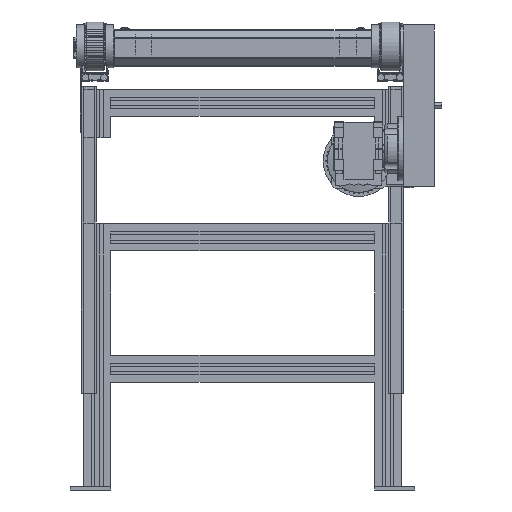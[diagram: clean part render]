
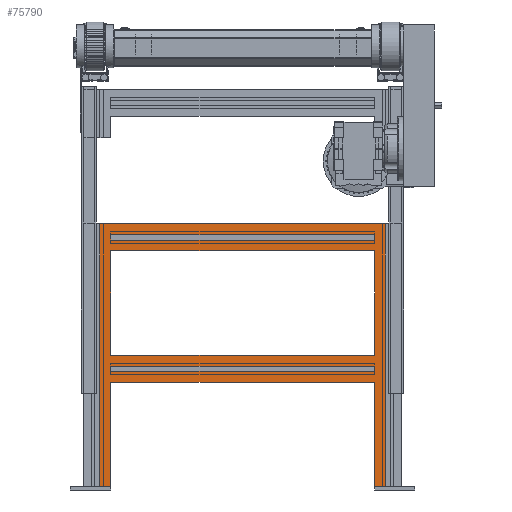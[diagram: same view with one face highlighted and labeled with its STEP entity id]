
A CAD part, front view. The second image highlights one B-rep face of the part: STEP entity #75790.
In plain terms, the highlighted planar face has unit normal (0, -1, 0).
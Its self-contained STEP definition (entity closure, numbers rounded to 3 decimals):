
#1174=FACE_BOUND('',#9986,.T.);
#1175=FACE_BOUND('',#9987,.T.);
#1176=FACE_BOUND('',#9988,.T.);
#6221=FACE_OUTER_BOUND('',#9985,.T.);
#9985=EDGE_LOOP('',(#56427,#56428,#56429,#56430,#56431,#56432,#56433,#56434));
#9986=EDGE_LOOP('',(#56435,#56436,#56437,#56438));
#9987=EDGE_LOOP('',(#56439,#56440,#56441,#56442));
#9988=EDGE_LOOP('',(#56443,#56444,#56445,#56446));
#15529=LINE('',#113650,#23461);
#15742=LINE('',#114098,#23674);
#15748=LINE('',#114112,#23680);
#15764=LINE('',#114145,#23696);
#15788=LINE('',#114196,#23720);
#15938=LINE('',#114492,#23870);
#15965=LINE('',#114545,#23897);
#16166=LINE('',#114943,#24098);
#16178=LINE('',#114967,#24110);
#16181=LINE('',#114973,#24113);
#16228=LINE('',#115066,#24160);
#16232=LINE('',#115074,#24164);
#16235=LINE('',#115079,#24167);
#16244=LINE('',#115094,#24176);
#16255=LINE('',#115116,#24187);
#16267=LINE('',#115140,#24199);
#16309=LINE('',#115221,#24241);
#16313=LINE('',#115228,#24245);
#16410=LINE('',#115418,#24342);
#16411=LINE('',#115420,#24343);
#23461=VECTOR('',#91843,19.95);
#23674=VECTOR('',#92186,194.5);
#23680=VECTOR('',#92196,10.1);
#23696=VECTOR('',#92216,194.5);
#23720=VECTOR('',#92250,10.1);
#23870=VECTOR('',#92486,489.);
#23897=VECTOR('',#92533,19.95);
#24098=VECTOR('',#92904,491.);
#24110=VECTOR('',#92928,491.);
#24113=VECTOR('',#92933,491.);
#24160=VECTOR('',#93020,491.);
#24164=VECTOR('',#93030,194.5);
#24167=VECTOR('',#93035,10.1);
#24176=VECTOR('',#93052,194.5);
#24187=VECTOR('',#93069,491.);
#24199=VECTOR('',#93093,491.);
#24241=VECTOR('',#93173,491.);
#24245=VECTOR('',#93183,10.1);
#24342=VECTOR('',#93366,489.);
#24343=VECTOR('',#93369,530.9);
#31228=VERTEX_POINT('',#113648);
#31229=VERTEX_POINT('',#113649);
#31396=VERTEX_POINT('',#114091);
#31399=VERTEX_POINT('',#114096);
#31404=VERTEX_POINT('',#114109);
#31405=VERTEX_POINT('',#114111);
#31419=VERTEX_POINT('',#114142);
#31420=VERTEX_POINT('',#114144);
#31440=VERTEX_POINT('',#114192);
#31442=VERTEX_POINT('',#114195);
#31544=VERTEX_POINT('',#114488);
#31545=VERTEX_POINT('',#114490);
#31673=VERTEX_POINT('',#114940);
#31679=VERTEX_POINT('',#114965);
#31681=VERTEX_POINT('',#114970);
#31706=VERTEX_POINT('',#115063);
#31708=VERTEX_POINT('',#115073);
#31719=VERTEX_POINT('',#115113);
#31725=VERTEX_POINT('',#115138);
#31795=VERTEX_POINT('',#115416);
#39830=EDGE_CURVE('',#31228,#31229,#15529,.T.);
#40053=EDGE_CURVE('',#31396,#31399,#15742,.T.);
#40059=EDGE_CURVE('',#31405,#31404,#15748,.T.);
#40075=EDGE_CURVE('',#31420,#31419,#15764,.T.);
#40099=EDGE_CURVE('',#31442,#31440,#15788,.T.);
#40249=EDGE_CURVE('',#31545,#31544,#15938,.T.);
#40276=EDGE_CURVE('',#31545,#31420,#15965,.T.);
#40479=EDGE_CURVE('',#31405,#31673,#16166,.T.);
#40491=EDGE_CURVE('',#31404,#31679,#16178,.T.);
#40494=EDGE_CURVE('',#31396,#31681,#16181,.T.);
#40541=EDGE_CURVE('',#31419,#31706,#16228,.T.);
#40545=EDGE_CURVE('',#31681,#31708,#16232,.T.);
#40548=EDGE_CURVE('',#31673,#31679,#16235,.T.);
#40557=EDGE_CURVE('',#31229,#31706,#16244,.T.);
#40568=EDGE_CURVE('',#31442,#31719,#16255,.T.);
#40580=EDGE_CURVE('',#31440,#31725,#16267,.T.);
#40622=EDGE_CURVE('',#31399,#31708,#16309,.T.);
#40626=EDGE_CURVE('',#31719,#31725,#16313,.T.);
#40723=EDGE_CURVE('',#31228,#31795,#16410,.T.);
#40724=EDGE_CURVE('',#31544,#31795,#16411,.T.);
#56427=ORIENTED_EDGE('',*,*,#40541,.T.);
#56428=ORIENTED_EDGE('',*,*,#40557,.F.);
#56429=ORIENTED_EDGE('',*,*,#39830,.F.);
#56430=ORIENTED_EDGE('',*,*,#40723,.T.);
#56431=ORIENTED_EDGE('',*,*,#40724,.F.);
#56432=ORIENTED_EDGE('',*,*,#40249,.F.);
#56433=ORIENTED_EDGE('',*,*,#40276,.T.);
#56434=ORIENTED_EDGE('',*,*,#40075,.T.);
#56435=ORIENTED_EDGE('',*,*,#40491,.T.);
#56436=ORIENTED_EDGE('',*,*,#40548,.F.);
#56437=ORIENTED_EDGE('',*,*,#40479,.F.);
#56438=ORIENTED_EDGE('',*,*,#40059,.T.);
#56439=ORIENTED_EDGE('',*,*,#40580,.T.);
#56440=ORIENTED_EDGE('',*,*,#40626,.F.);
#56441=ORIENTED_EDGE('',*,*,#40568,.F.);
#56442=ORIENTED_EDGE('',*,*,#40099,.T.);
#56443=ORIENTED_EDGE('',*,*,#40494,.F.);
#56444=ORIENTED_EDGE('',*,*,#40053,.T.);
#56445=ORIENTED_EDGE('',*,*,#40622,.T.);
#56446=ORIENTED_EDGE('',*,*,#40545,.F.);
#69085=PLANE('',#80553);
#75790=ADVANCED_FACE('',(#6221,#1174,#1175,#1176),#69085,.T.);
#80553=AXIS2_PLACEMENT_3D('',#115419,#93367,#93368);
#91843=DIRECTION('',(-1.,0.,0.));
#92186=DIRECTION('',(0.,0.,1.));
#92196=DIRECTION('',(0.,0.,1.));
#92216=DIRECTION('',(0.,0.,1.));
#92250=DIRECTION('',(0.,0.,1.));
#92486=DIRECTION('',(0.,0.,1.));
#92533=DIRECTION('',(1.,0.,0.));
#92904=DIRECTION('',(1.,0.,0.));
#92928=DIRECTION('',(1.,0.,0.));
#92933=DIRECTION('',(1.,0.,0.));
#93020=DIRECTION('',(1.,0.,0.));
#93030=DIRECTION('',(0.,0.,1.));
#93035=DIRECTION('',(0.,0.,1.));
#93052=DIRECTION('',(0.,0.,1.));
#93069=DIRECTION('',(1.,0.,0.));
#93093=DIRECTION('',(1.,0.,0.));
#93173=DIRECTION('',(1.,0.,0.));
#93183=DIRECTION('',(0.,0.,1.));
#93366=DIRECTION('',(0.,0.,1.));
#93367=DIRECTION('center_axis',(0.,-1.,0.));
#93368=DIRECTION('ref_axis',(0.,0.,-1.));
#93369=DIRECTION('',(1.,0.,0.));
#113648=CARTESIAN_POINT('',(265.45,-345.,-819.));
#113649=CARTESIAN_POINT('',(245.5,-345.,-819.));
#113650=CARTESIAN_POINT('',(274.225,-345.,-819.));
#114091=CARTESIAN_POINT('',(-245.5,-345.,-574.5));
#114096=CARTESIAN_POINT('',(-245.5,-345.,-380.));
#114098=CARTESIAN_POINT('',(-245.5,-345.,-819.));
#114109=CARTESIAN_POINT('',(-245.5,-345.,-594.45));
#114111=CARTESIAN_POINT('',(-245.5,-345.,-604.55));
#114112=CARTESIAN_POINT('',(-245.5,-345.,-819.));
#114142=CARTESIAN_POINT('',(-245.5,-345.,-624.5));
#114144=CARTESIAN_POINT('',(-245.5,-345.,-819.));
#114145=CARTESIAN_POINT('',(-245.5,-345.,-819.));
#114192=CARTESIAN_POINT('',(-245.5,-345.,-349.95));
#114195=CARTESIAN_POINT('',(-245.5,-345.,-360.05));
#114196=CARTESIAN_POINT('',(-245.5,-345.,-819.));
#114488=CARTESIAN_POINT('',(-265.45,-345.,-330.));
#114490=CARTESIAN_POINT('',(-265.45,-345.,-819.));
#114492=CARTESIAN_POINT('',(-265.45,-345.,-819.));
#114545=CARTESIAN_POINT('',(-274.225,-345.,-819.));
#114940=CARTESIAN_POINT('',(245.5,-345.,-604.55));
#114943=CARTESIAN_POINT('',(0.,-345.,-604.55));
#114965=CARTESIAN_POINT('',(245.5,-345.,-594.45));
#114967=CARTESIAN_POINT('',(0.,-345.,-594.45));
#114970=CARTESIAN_POINT('',(245.5,-345.,-574.5));
#114973=CARTESIAN_POINT('',(0.,-345.,-574.5));
#115063=CARTESIAN_POINT('',(245.5,-345.,-624.5));
#115066=CARTESIAN_POINT('',(0.,-345.,-624.5));
#115073=CARTESIAN_POINT('',(245.5,-345.,-380.));
#115074=CARTESIAN_POINT('',(245.5,-345.,-819.));
#115079=CARTESIAN_POINT('',(245.5,-345.,-819.));
#115094=CARTESIAN_POINT('',(245.5,-345.,-819.));
#115113=CARTESIAN_POINT('',(245.5,-345.,-360.05));
#115116=CARTESIAN_POINT('',(0.,-345.,-360.05));
#115138=CARTESIAN_POINT('',(245.5,-345.,-349.95));
#115140=CARTESIAN_POINT('',(0.,-345.,-349.95));
#115221=CARTESIAN_POINT('',(0.,-345.,-380.));
#115228=CARTESIAN_POINT('',(245.5,-345.,-819.));
#115416=CARTESIAN_POINT('',(265.45,-345.,-330.));
#115418=CARTESIAN_POINT('',(265.45,-345.,-819.));
#115419=CARTESIAN_POINT('Origin',(265.45,-345.,-819.));
#115420=CARTESIAN_POINT('',(0.,-345.,-330.));
